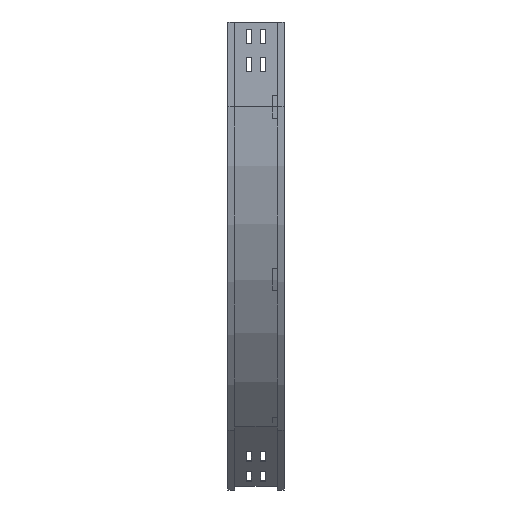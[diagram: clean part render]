
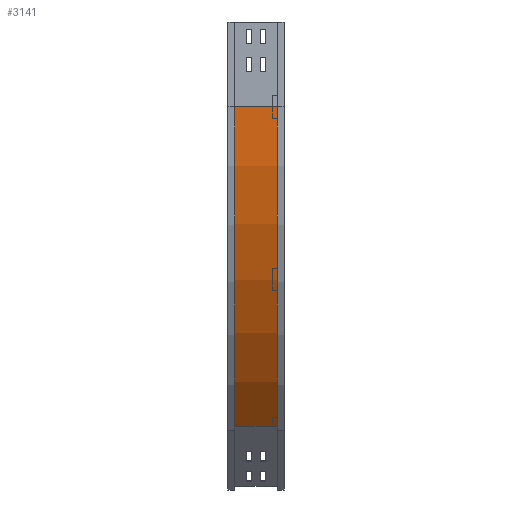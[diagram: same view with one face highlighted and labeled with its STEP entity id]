
A CAD part, left-side view. The second image highlights one B-rep face of the part: STEP entity #3141.
In plain terms, the highlighted cylindrical face has radius 800 mm (diameter 1600 mm), a partial arc.
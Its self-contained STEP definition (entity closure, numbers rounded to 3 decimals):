
#41 = EDGE_CURVE ( 'NONE', #398, #3791, #3915, .T. ) ;
#79 = VECTOR ( 'NONE', #3454, 1000. ) ;
#251 = DIRECTION ( 'NONE',  ( -1., 0., 0. ) ) ;
#258 = CARTESIAN_POINT ( 'NONE',  ( 243.315, 88., -715.685 ) ) ;
#338 = CARTESIAN_POINT ( 'NONE',  ( 809., 12., -150. ) ) ;
#359 = DIRECTION ( 'NONE',  ( 0., -1., 0. ) ) ;
#398 = VERTEX_POINT ( 'NONE', #4092 ) ;
#462 = EDGE_CURVE ( 'NONE', #3791, #2215, #2384, .T. ) ;
#809 = CYLINDRICAL_SURFACE ( 'NONE', #1033, 800. ) ;
#1033 = AXIS2_PLACEMENT_3D ( 'NONE', #3680, #2594, #1904 ) ;
#1503 = ORIENTED_EDGE ( 'NONE', *, *, #41, .F. ) ;
#1814 = EDGE_CURVE ( 'NONE', #2223, #2215, #3983, .T. ) ;
#1904 = DIRECTION ( 'NONE',  ( 0., 0., -1. ) ) ;
#2141 = CARTESIAN_POINT ( 'NONE',  ( 9., 12., -150. ) ) ;
#2199 = AXIS2_PLACEMENT_3D ( 'NONE', #2671, #2284, #251 ) ;
#2215 = VERTEX_POINT ( 'NONE', #4122 ) ;
#2223 = VERTEX_POINT ( 'NONE', #258 ) ;
#2284 = DIRECTION ( 'NONE',  ( 0., -1., 0. ) ) ;
#2294 = FACE_OUTER_BOUND ( 'NONE', #3655, .T. ) ;
#2384 = CIRCLE ( 'NONE', #3336, 800. ) ;
#2437 = DIRECTION ( 'NONE',  ( -1., 0., 0. ) ) ;
#2594 = DIRECTION ( 'NONE',  ( 0., -1., 0. ) ) ;
#2671 = CARTESIAN_POINT ( 'NONE',  ( 809., 88., -150. ) ) ;
#2786 = CIRCLE ( 'NONE', #2199, 800. ) ;
#2810 = CARTESIAN_POINT ( 'NONE',  ( 9., 12., -150. ) ) ;
#2988 = ORIENTED_EDGE ( 'NONE', *, *, #4027, .T. ) ;
#3141 = ADVANCED_FACE ( 'NONE', ( #2294 ), #809, .T. ) ;
#3336 = AXIS2_PLACEMENT_3D ( 'NONE', #338, #359, #2437 ) ;
#3454 = DIRECTION ( 'NONE',  ( 0., -1., 0. ) ) ;
#3655 = EDGE_LOOP ( 'NONE', ( #3719, #1503, #2988, #4207 ) ) ;
#3680 = CARTESIAN_POINT ( 'NONE',  ( 809., 0., -150. ) ) ;
#3719 = ORIENTED_EDGE ( 'NONE', *, *, #462, .F. ) ;
#3782 = DIRECTION ( 'NONE',  ( 0., -1., 0. ) ) ;
#3791 = VERTEX_POINT ( 'NONE', #2810 ) ;
#3915 = LINE ( 'NONE', #2141, #4047 ) ;
#3983 = LINE ( 'NONE', #4110, #79 ) ;
#4027 = EDGE_CURVE ( 'NONE', #398, #2223, #2786, .T. ) ;
#4047 = VECTOR ( 'NONE', #3782, 1000. ) ;
#4092 = CARTESIAN_POINT ( 'NONE',  ( 9., 88., -150. ) ) ;
#4110 = CARTESIAN_POINT ( 'NONE',  ( 243.315, 12., -715.685 ) ) ;
#4122 = CARTESIAN_POINT ( 'NONE',  ( 243.315, 12., -715.685 ) ) ;
#4207 = ORIENTED_EDGE ( 'NONE', *, *, #1814, .T. ) ;
